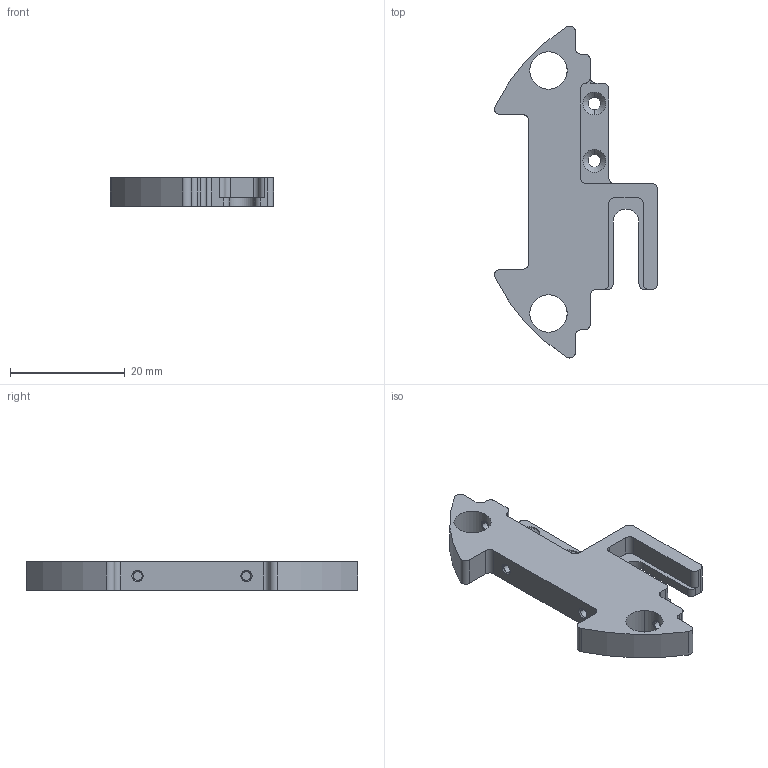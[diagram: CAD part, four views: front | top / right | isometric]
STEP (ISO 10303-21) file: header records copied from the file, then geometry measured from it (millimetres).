
FILE_DESCRIPTION(/* description */ ('(C) Elphel, Inc. 2012. Licensed under CERN OHL v.1.1 or later, see http://ohwr.org/cernohl'),/* implementation_level */ '2;1');
FILE_NAME(/* name */ '0353-19-73B',/* time_stamp */ '2012-12-10T11:59:47-07:00',/* author */ (''),/* organization */ ('Elphel, Inc'),/* preprocessor_version */ 'ST-DEVELOPER v12',/* originating_system */ 'VariCAD 2012-1.04; kernel version (20100102)',/* authorisation */ '');
FILE_SCHEMA (('CONFIG_CONTROL_DESIGN'));
Length unit declared in the file: millimetre
Products named in the file (1): Part
Bounding box: 28.47 x 57.95 x 5 mm (x, y, z)
Volume: 3409.4 mm3; surface area: 3107 mm2
Topology: 5 solids, 5 shells, 116 faces, 291 edges, 185 vertices
Faces by surface type: cylinder 70, plane 34, cone 12
Entity records: 3717 total; most frequent: CARTESIAN_POINT 754, DIRECTION 647, ORIENTED_EDGE 582, EDGE_CURVE 291, AXIS2_PLACEMENT_3D 246, VERTEX_POINT 185, LINE 155, VECTOR 155
